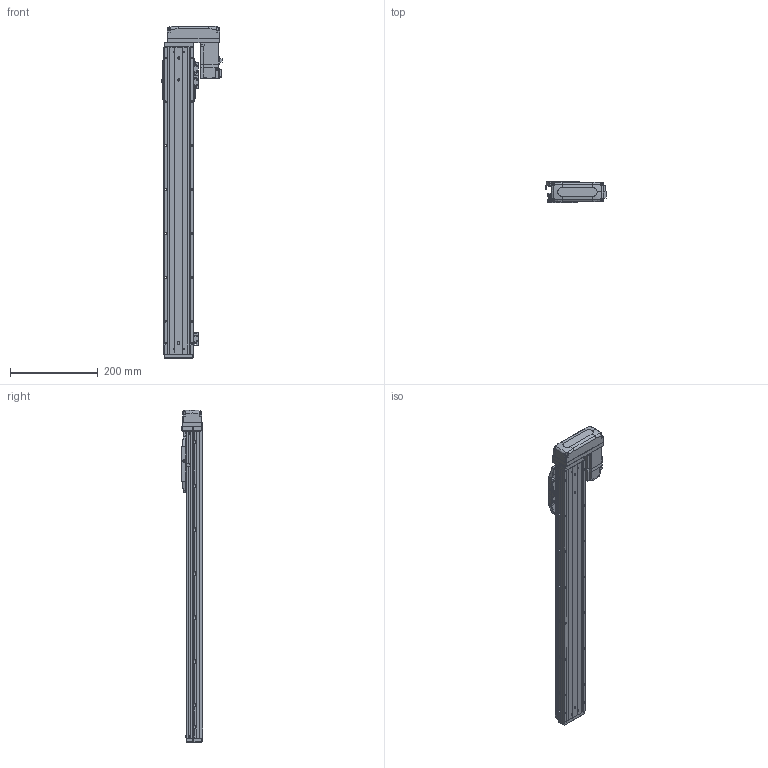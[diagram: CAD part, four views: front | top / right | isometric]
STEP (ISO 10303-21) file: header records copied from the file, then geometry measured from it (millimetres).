
FILE_DESCRIPTION (( 'STEP AP203' ), '1' );
FILE_NAME ('CTHA60-550-BL-M10-C4L.step', '2022-03-19T06:14:42', ( '微软用户' ), ( '微软中国' ), 'SwSTEP 2.0', 'SolidWorks 2020', '' );
FILE_SCHEMA (( 'CONFIG_CONTROL_DESIGN' ));
Length unit declared in the file: millimetre
Products named in the file (18): CTHA60-021; HG-KR13（三菱）; CTHA60-001_700; GBT 70.1-M4×16; CTHA60-002; CTHA60-004; GBT77-2000 M3×3; CTHA60-031; CTHA60-005; GBT 70.1-M3℅6; CTHA60-006-1; GB¨uT 70.2-M3¡Á6_M3¡Á6; GBT 70.3-M3℅6; CTHA60-033; EE_SX911P_R; CTHA60-016; CTHA60-550-BL-M10-C4L; CTHA60-017
Assembly tree (54 placements, depth 2):
  CTHA60-550-BL-M10-C4L
    CTHA60-001_700
    CTHA60-004
    CTHA60-005
    GB¨uT 70.2-M3¡Á6_M3¡Á6  x10
    EE_SX911P_R  x3
    CTHA60-017  x3
    CTHA60-021  x2
    GBT 70.1-M4×16  x10
    GBT77-2000 M3×3  x6
    GBT 70.1-M3℅6  x6
    GBT 70.3-M3℅6  x4
    CTHA60-016  x2
    HG-KR13（三菱）
    CTHA60-002
    CTHA60-031
    CTHA60-006-1
    CTHA60-033
Bounding box: 137.1 x 48 x 757 mm (x, y, z)
Volume: 1329709 mm3; surface area: 401709.2 mm2
Topology: 56 solids, 56 shells, 2534 faces, 6093 edges, 3757 vertices
Faces by surface type: plane 1461, cylinder 583, cone 342, torus 92, bspline 32, sphere 24
Entity records: 45657 total; most frequent: CARTESIAN_POINT 8810, DIRECTION 7056, ORIENTED_EDGE 6994, EDGE_CURVE 3497, VECTOR 2484, LINE 2484, AXIS2_PLACEMENT_3D 2286, VERTEX_POINT 2216
